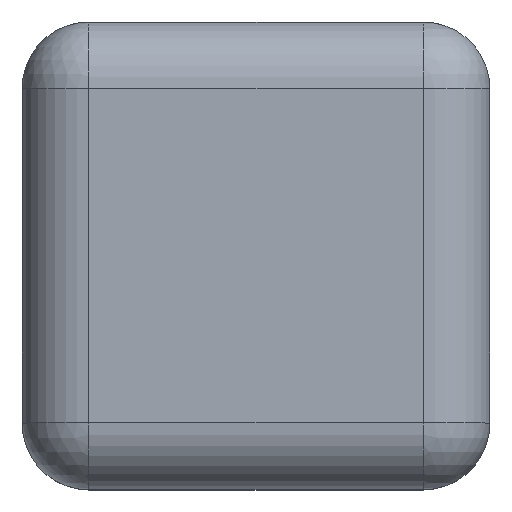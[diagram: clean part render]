
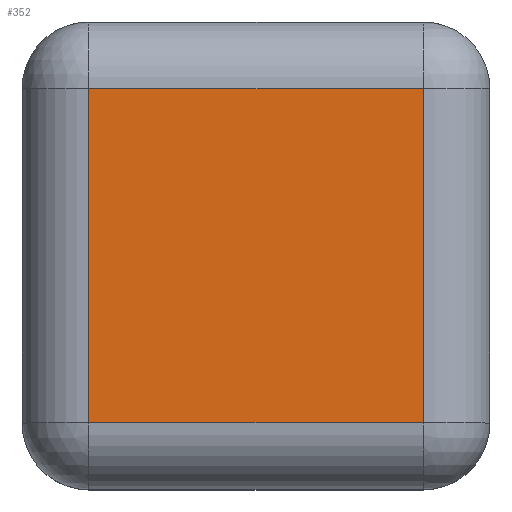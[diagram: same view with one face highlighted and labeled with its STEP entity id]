
A CAD part, top view. The second image highlights one B-rep face of the part: STEP entity #352.
In plain terms, the highlighted planar face has unit normal (0, 0, 1).
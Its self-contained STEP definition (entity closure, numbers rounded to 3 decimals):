
#29 = LINE ( 'NONE', #316, #181 ) ;
#38 = FACE_OUTER_BOUND ( 'NONE', #704, .T. ) ;
#68 = VECTOR ( 'NONE', #162, 1000. ) ;
#82 = LINE ( 'NONE', #284, #821 ) ;
#93 = CARTESIAN_POINT ( 'NONE',  ( -2.5, 22.5, 200. ) ) ;
#94 = ORIENTED_EDGE ( 'NONE', *, *, #169, .T. ) ;
#159 = DIRECTION ( 'NONE',  ( 1., 0., 0. ) ) ;
#162 = DIRECTION ( 'NONE',  ( -1., 0., 0. ) ) ;
#163 = ORIENTED_EDGE ( 'NONE', *, *, #664, .T. ) ;
#169 = EDGE_CURVE ( 'NONE', #519, #491, #82, .T. ) ;
#181 = VECTOR ( 'NONE', #816, 1000. ) ;
#187 = CARTESIAN_POINT ( 'NONE',  ( 22.5, -2.5, 200. ) ) ;
#196 = EDGE_CURVE ( 'NONE', #491, #576, #537, .T. ) ;
#234 = CARTESIAN_POINT ( 'NONE',  ( 0., 0., 200. ) ) ;
#251 = CARTESIAN_POINT ( 'NONE',  ( -2.5, -2.5, 200. ) ) ;
#284 = CARTESIAN_POINT ( 'NONE',  ( 27.5, -2.5, 200. ) ) ;
#316 = CARTESIAN_POINT ( 'NONE',  ( -2.5, -7.5, 200. ) ) ;
#332 = CARTESIAN_POINT ( 'NONE',  ( 22.5, 22.5, 200. ) ) ;
#351 = DIRECTION ( 'NONE',  ( 0., 1., 0. ) ) ;
#352 = ADVANCED_FACE ( 'NONE', ( #38 ), #623, .F. ) ;
#372 = DIRECTION ( 'NONE',  ( -1., 0., 0. ) ) ;
#400 = EDGE_CURVE ( 'NONE', #596, #519, #29, .T. ) ;
#405 = ORIENTED_EDGE ( 'NONE', *, *, #400, .T. ) ;
#457 = LINE ( 'NONE', #485, #68 ) ;
#472 = AXIS2_PLACEMENT_3D ( 'NONE', #234, #681, #372 ) ;
#485 = CARTESIAN_POINT ( 'NONE',  ( -7.5, 22.5, 200. ) ) ;
#491 = VERTEX_POINT ( 'NONE', #187 ) ;
#519 = VERTEX_POINT ( 'NONE', #251 ) ;
#537 = LINE ( 'NONE', #604, #627 ) ;
#576 = VERTEX_POINT ( 'NONE', #332 ) ;
#596 = VERTEX_POINT ( 'NONE', #93 ) ;
#604 = CARTESIAN_POINT ( 'NONE',  ( 22.5, 27.5, 200. ) ) ;
#623 = PLANE ( 'NONE',  #472 ) ;
#627 = VECTOR ( 'NONE', #351, 1000. ) ;
#664 = EDGE_CURVE ( 'NONE', #576, #596, #457, .T. ) ;
#681 = DIRECTION ( 'NONE',  ( 0., 0., -1. ) ) ;
#704 = EDGE_LOOP ( 'NONE', ( #788, #163, #405, #94 ) ) ;
#788 = ORIENTED_EDGE ( 'NONE', *, *, #196, .T. ) ;
#816 = DIRECTION ( 'NONE',  ( 0., -1., 0. ) ) ;
#821 = VECTOR ( 'NONE', #159, 1000. ) ;
